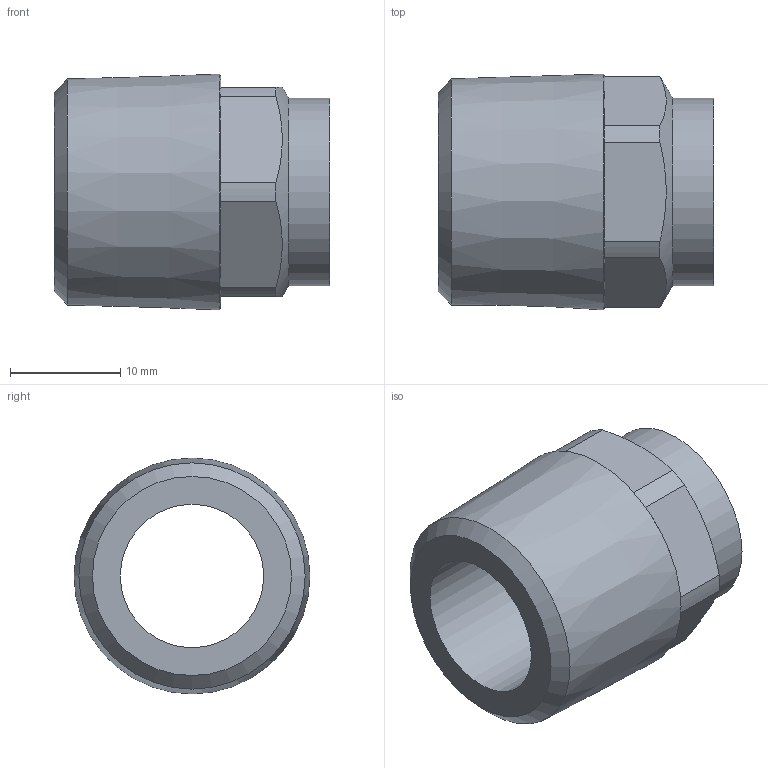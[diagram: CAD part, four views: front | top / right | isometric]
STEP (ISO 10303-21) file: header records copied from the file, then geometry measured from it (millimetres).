
FILE_DESCRIPTION((''),'2;1');
FILE_NAME('\\Lg50001\Groups\SANHA Legnica\Engineering\Public\RYSUNKI\SANHA POLSKA\4243G\step\14243_14-12(2).stp','2008-08-20T12:24:04',('pajchrowski'),(''),'Autodesk Inventor 2008','Autodesk Inventor 2008','');
FILE_SCHEMA(('AUTOMOTIVE_DESIGN { 1 0 10303 214 1 1 1 1 }'));
Length unit declared in the file: millimetre
Products named in the file (1): 14243_14-12(2)
Bounding box: 25 x 21.38 x 21.38 mm (x, y, z)
Volume: 4313.2 mm3; surface area: 2973.4 mm2
Topology: 1 solids, 1 shells, 28 faces, 60 edges, 35 vertices
Faces by surface type: plane 15, cylinder 9, cone 4
Full cylindrical faces by diameter (mm): 13 x1, 14 x1, 17 x1
Entity records: 722 total; most frequent: DIRECTION 130, CARTESIAN_POINT 125, ORIENTED_EDGE 102, AXIS2_PLACEMENT_3D 56, EDGE_CURVE 51, EDGE_LOOP 38, VERTEX_POINT 33, FACE_OUTER_BOUND 28
